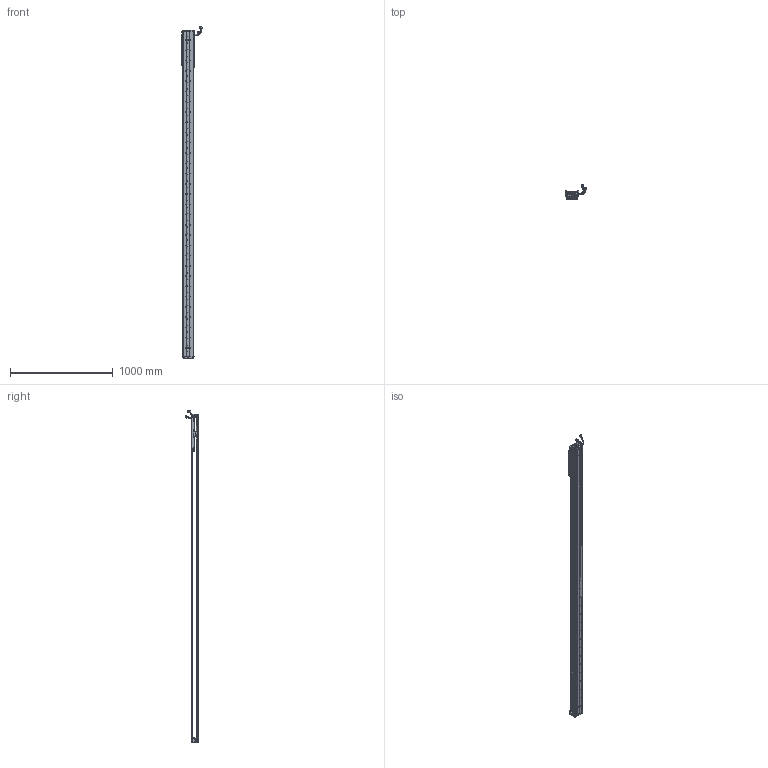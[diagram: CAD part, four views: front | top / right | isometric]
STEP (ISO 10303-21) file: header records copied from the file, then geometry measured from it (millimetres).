
FILE_DESCRIPTION (( 'STEP AP203' ), '1' );
FILE_NAME ('Z4-RY100D-1-L500-B-K.SLDASM_2800.step', '2021-05-17T03:05:07', ( '盈信电脑' ), ( '东莞市道滘镇水果街19号' ), 'SwSTEP 2.0', 'SolidWorks 2016', '' );
FILE_SCHEMA (( 'CONFIG_CONTROL_DESIGN' ));
Length unit declared in the file: millimetre
Products named in the file (36): COVER-Part-1; 榋妏寠巭燃_暯_M2_2; COVER; Z-RY100D詩湍奻揤裔; SCALE-Part-2; HARNESS; SCREW-M1.6-1; Z4-RY100D-500-倰第菁釱_2800; 覜茼ん672; 100-Z-臏賑輸盄裔(21遴); PBU_SHEET; LABEL-Part-1; Z-RY100D覜茼んえ; SCALE; SCREW-M1.7; SHIELDPLATE; SEAL; SCREW-M1.6; SCREW-M1.7-1; Z4-RY100D-1-L500-B-K.SLDASM_2800; Z-100詩湍傷裔啣; Z4-RY100-L500詩湍90mm遵_2800; Z-RY100D詩湍狟揤裔; 080黍杅芛假蚾釱21遴; HARNESS-Part-1; LABEL; Z4-RY100铝滑块（21款）; HARNESS-Part-2; 140雄赽晤鎢ん堤盄; SEAL-Part-1; PSLH080_PSLF2; SCREW-M1.6-3; SCREW-M1.6-2; HOLDER0; 140蚥薯蝶輸; SCALE-Part-1
Assembly tree (43 placements, depth 4):
  Z4-RY100D-1-L500-B-K.SLDASM_2800
    Z4-RY100D-500-倰第菁釱_2800
    Z4-RY100铝滑块（21款）
    PSLH080_PSLF2
      SCALE
        SCALE-Part-1
        SCALE-Part-2
      HARNESS
        HARNESS-Part-1
        HARNESS-Part-2
      LABEL
        LABEL-Part-1
      COVER
        COVER-Part-1
      SEAL
        SEAL-Part-1
      榋妏寠巭燃_暯_M2_2
      SHIELDPLATE
      SCREW-M1.7
      SCREW-M1.7-1
      PBU_SHEET
      SCREW-M1.6
      SCREW-M1.6-1
      SCREW-M1.6-2
      SCREW-M1.6-3
      HOLDER0
    080黍杅芛假蚾釱21遴
    Z-100詩湍傷裔啣  x2
    140蚥薯蝶輸  x2
    覜茼ん672  x3
    Z-RY100D覜茼んえ  x3
    100-Z-臏賑輸盄裔(21遴)
    140雄赽晤鎢ん堤盄
    Z4-RY100-L500詩湍90mm遵_2800
    Z-RY100D詩湍狟揤裔  x2
    Z-RY100D詩湍奻揤裔  x2
Bounding box: 205.79 x 136.11 x 3235.43 mm (x, y, z)
Volume: 5904248.5 mm3; surface area: 2317681.2 mm2
Topology: 38 solids, 38 shells, 3150 faces, 8683 edges, 5556 vertices
Faces by surface type: cylinder 1598, plane 1204, cone 226, torus 69, bspline 53
Entity records: 92699 total; most frequent: CARTESIAN_POINT 19370, DIRECTION 15023, ORIENTED_EDGE 14246, EDGE_CURVE 7123, AXIS2_PLACEMENT_3D 5681, VERTEX_POINT 4624, LINE 3661, VECTOR 3661
